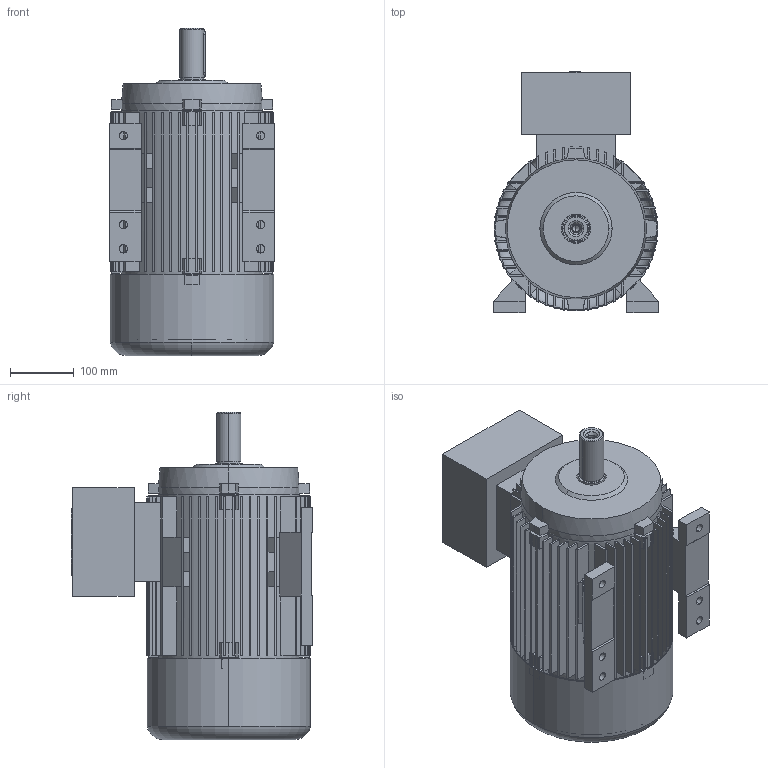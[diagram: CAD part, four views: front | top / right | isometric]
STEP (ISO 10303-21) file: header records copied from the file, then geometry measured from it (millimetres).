
FILE_DESCRIPTION (( 'STEP AP214' ), '1' );
FILE_NAME ('20.17503-A 7AT 132S&M B3 Exde STANDK.STEP', '2018-05-10T13:06:05', ( '' ), ( '' ), 'SwSTEP 2.0', 'SolidWorks 2017', '' );
FILE_SCHEMA (( 'AUTOMOTIVE_DESIGN' ));
Length unit declared in the file: millimetre
Products named in the file (1): 20.17503-A 7AT 132S&M B3 Exde STANDK
Bounding box: 260 x 380 x 515 mm (x, y, z)
Volume: 8547895.6 mm3; surface area: 1627173.9 mm2
Topology: 8 solids, 8 shells, 688 faces, 1862 edges, 1229 vertices
Faces by surface type: plane 482, cylinder 163, cone 30, bspline 9, torus 4
Entity records: 22770 total; most frequent: CARTESIAN_POINT 4003, DIRECTION 3746, ORIENTED_EDGE 3704, EDGE_CURVE 1852, AXIS2_PLACEMENT_3D 1252, LINE 1242, VECTOR 1242, VERTEX_POINT 1229
